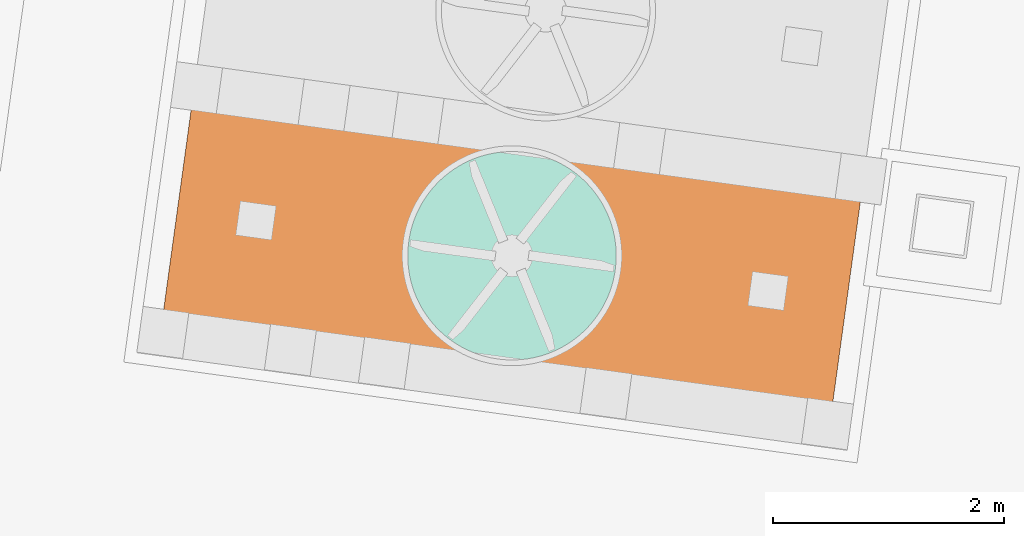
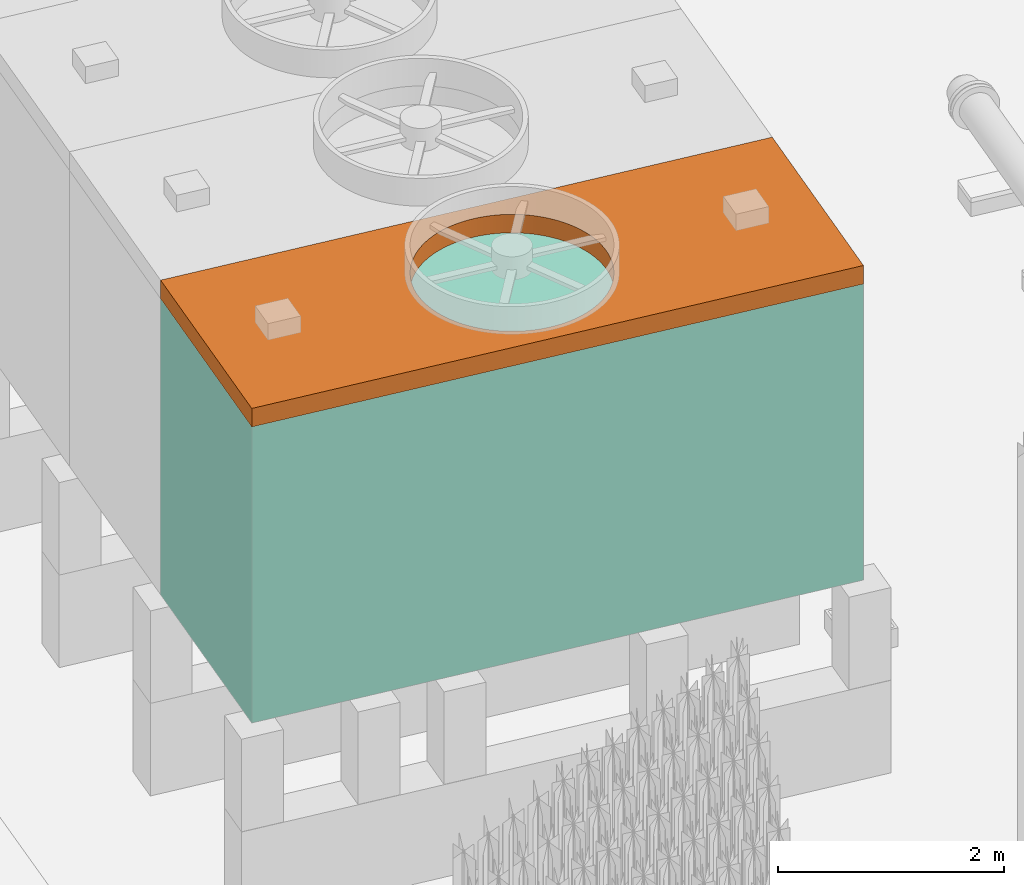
# Not in any storey, part 36 of 75: 1 proxy, plus 1 element that does not belong to this part.
"""IFC4 model written with IfcOpenShell, lengths in metres."""

from ifc_helpers import new_model, si_unit, direction, origin_with_axes, place, context, subcontext, project, spatial, triangles, element, aggregate, save


model = new_model("IFC4")

# Units and contexts
model_context = context("Model", 3, precision=1e-05, world=origin_with_axes(), true_north=direction((0.0, 1.0)))
body_context = subcontext(model_context, "Body", "Model", "MODEL_VIEW")
ifc_project = project(units=[si_unit("AREAUNIT", "SQUARE_METRE"), si_unit("VOLUMEUNIT", "CUBIC_METRE"), si_unit("LENGTHUNIT", "METRE")], contexts=[model_context])

# Site
site_placement = place(None, origin_with_axes())
site = spatial("IfcSite", under=ifc_project, at=site_placement, Name="Parcela industrial Jinhong")

# Cooling tower, proxy
cooling_tower_placement = place(site_placement, origin_with_axes())
cooling_tower = element("IfcCoolingTower", 1, at=cooling_tower_placement, inside=site, Name="Torre de refrigeración WT3001D · Envolvente del cuerpo de la torre", ObjectType="Envolvente de equipo", PredefinedType="USERDEFINED", context=body_context, shape_type="Tessellation", body=[
    triangles([(41.65741, 42.104178, 6.3), (36.153404, 45.021028, 6.3), (35.861928, 42.900971, 6.3), (36.153404, 45.021028, 3.1), (41.65741, 42.104178, 3.1), (35.861928, 42.900971, 3.1), (41.948887, 44.224235, 6.3), (41.948887, 44.224235, 3.1)], [[1, 2, 3], [4, 5, 6], [1, 7, 2], [5, 4, 8], [5, 8, 7], [5, 7, 1], [8, 4, 2], [7, 8, 2], [3, 4, 6], [4, 3, 2], [6, 5, 1], [3, 6, 1]], closed=True),
])
proxy_placement = place(cooling_tower_placement, origin_with_axes())
proxy = element("IfcBuildingElementProxy", 2, at=proxy_placement, Name="Torre de refrigeración WT3001D · Plataforma superior con hueco de ventilador", context=body_context, shape_type="Tessellation", body=[
    triangles([(38.015956, 43.714691, 6.5), (35.861928, 42.900971, 6.5), (38.011456, 43.685508, 6.5), (35.861928, 42.900971, 6.3), (38.015956, 43.714691, 6.3), (38.011456, 43.685508, 6.3), (38.007913, 43.656193, 6.5), (38.007913, 43.656193, 6.3), (36.153404, 45.021028, 6.5), (36.153404, 45.021028, 6.3), (38.005331, 43.626778, 6.5), (38.005331, 43.626778, 6.3), (38.021408, 43.743712, 6.5), (38.021408, 43.743712, 6.3), (38.003713, 43.597294, 6.5), (38.003713, 43.597294, 6.3), (38.027807, 43.772539, 6.5), (38.027807, 43.772539, 6.3), (38.003061, 43.567772, 6.5), (38.003061, 43.567772, 6.3), (38.035146, 43.801141, 6.5), (38.035146, 43.801141, 6.3), (38.003375, 43.538246, 6.5), (38.003375, 43.538246, 6.3), (38.043417, 43.829487, 6.5), (38.043417, 43.829487, 6.3), (38.004655, 43.508745, 6.5), (38.004655, 43.508745, 6.3), (38.05261, 43.857548, 6.5), (38.05261, 43.857548, 6.3), (38.0069, 43.479302, 6.5), (38.0069, 43.479302, 6.3), (38.062717, 43.885292, 6.5), (38.062717, 43.885292, 6.3), (38.010106, 43.449948, 6.5), (38.010106, 43.449948, 6.3), (38.073726, 43.912692, 6.5), (38.073726, 43.912692, 6.3), (38.014271, 43.420715, 6.5), (38.014271, 43.420715, 6.3), (38.085626, 43.939716, 6.5), (38.085626, 43.939716, 6.3), (38.019391, 43.391634, 6.5), (38.019391, 43.391634, 6.3), (38.098404, 43.966337, 6.5), (38.098404, 43.966337, 6.3), (38.025459, 43.362736, 6.5), (38.025459, 43.362736, 6.3), (38.112046, 43.992525, 6.5), (38.112046, 43.992525, 6.3), (38.03247, 43.334052, 6.5), (38.03247, 43.334052, 6.3), (38.126537, 44.018253, 6.5), (38.126537, 44.018253, 6.3), (38.040415, 43.305613, 6.5), (38.040415, 43.305613, 6.3), (38.141863, 44.043493, 6.5), (38.141863, 44.043493, 6.3), (38.049287, 43.277448, 6.5), (38.049287, 43.277448, 6.3), (38.158006, 44.068218, 6.5), (38.158006, 44.068218, 6.3), (38.059075, 43.24959, 6.5), (38.059075, 43.24959, 6.3), (38.174949, 44.092401, 6.5), (38.174949, 44.092401, 6.3), (38.06977, 43.222066, 6.5), (38.06977, 43.222066, 6.3), (38.192675, 44.116018, 6.5), (38.192675, 44.116018, 6.3), (38.081359, 43.194907, 6.5), (38.081359, 43.194907, 6.3), (38.211164, 44.139041, 6.5), (38.211164, 44.139041, 6.3), (38.093831, 43.168142, 6.5), (38.093831, 43.168142, 6.3), (38.230396, 44.161448, 6.5), (38.230396, 44.161448, 6.3), (38.107172, 43.141799, 6.5), (38.107172, 43.141799, 6.3), (38.250351, 44.183213, 6.5), (38.250351, 44.183213, 6.3), (38.121368, 43.115907, 6.5), (38.121368, 43.115907, 6.3), (38.271008, 44.204313, 6.5), (38.271008, 44.204313, 6.3), (38.136403, 43.090493, 6.5), (38.136403, 43.090493, 6.3), (38.292343, 44.224727, 6.5), (38.292343, 44.224727, 6.3), (38.152262, 43.065585, 6.5), (38.152262, 43.065585, 6.3), (38.314336, 44.244431, 6.5), (38.314336, 44.244431, 6.3), (38.168927, 43.041208, 6.5), (38.168927, 43.041208, 6.3), (38.336961, 44.263405, 6.5), (38.336961, 44.263405, 6.3), (38.186381, 43.017391, 6.5), (38.186381, 43.017391, 6.3), (38.360195, 44.281629, 6.5), (38.360195, 44.281629, 6.3), (38.204605, 42.994157, 6.5), (38.204605, 42.994157, 6.3), (38.384013, 44.299083, 6.5), (38.384013, 44.299083, 6.3), (38.223579, 42.971531, 6.5), (38.223579, 42.971531, 6.3), (38.408389, 44.315748, 6.5), (38.408389, 44.315748, 6.3), (38.243283, 42.949539, 6.5), (38.243283, 42.949539, 6.3), (38.433297, 44.331607, 6.5), (38.433297, 44.331607, 6.3), (38.263697, 42.928203, 6.5), (38.263697, 42.928203, 6.3), (38.458711, 44.346642, 6.5), (38.458711, 44.346642, 6.3), (38.284797, 42.907547, 6.5), (38.284797, 42.907547, 6.3), (38.484603, 44.360838, 6.5), (38.484603, 44.360838, 6.3), (38.306562, 42.887592, 6.5), (38.306562, 42.887592, 6.3), (38.510946, 44.374179, 6.5), (38.510946, 44.374179, 6.3), (38.328969, 42.868359, 6.5), (38.328969, 42.868359, 6.3), (38.537711, 44.386651, 6.5), (38.537711, 44.386651, 6.3), (38.351992, 42.849871, 6.5), (38.351992, 42.849871, 6.3), (38.56487, 44.39824, 6.5), (38.56487, 44.39824, 6.3), (38.375609, 42.832145, 6.5), (38.375609, 42.832145, 6.3), (38.592394, 44.408935, 6.5), (38.592394, 44.408935, 6.3), (38.399792, 42.815202, 6.5), (38.399792, 42.815202, 6.3), (38.620253, 44.418723, 6.5), (38.620253, 44.418723, 6.3), (38.424517, 42.799059, 6.5), (38.424517, 42.799059, 6.3), (38.648417, 44.427595, 6.5), (38.648417, 44.427595, 6.3), (38.449757, 42.783733, 6.5), (38.449757, 42.783733, 6.3), (38.676856, 44.43554, 6.5), (38.676856, 44.43554, 6.3), (38.475485, 42.769242, 6.5), (38.475485, 42.769242, 6.3), (38.70554, 44.442551, 6.5), (38.70554, 44.442551, 6.3), (38.501673, 42.7556, 6.5), (38.501673, 42.7556, 6.3), (38.734438, 44.448619, 6.5), (38.734438, 44.448619, 6.3), (38.528294, 42.742822, 6.5), (38.528294, 42.742822, 6.3), (38.76352, 44.453739, 6.5), (38.76352, 44.453739, 6.3), (38.555318, 42.730922, 6.5), (38.555318, 42.730922, 6.3), (38.792753, 44.457904, 6.5), (38.792753, 44.457904, 6.3), (38.582718, 42.719913, 6.5), (38.582718, 42.719913, 6.3), (38.822106, 44.46111, 6.5), (38.822106, 44.46111, 6.3), (38.610462, 42.709806, 6.5), (38.610462, 42.709806, 6.3), (38.851549, 44.463355, 6.5), (38.851549, 44.463355, 6.3), (38.638523, 42.700612, 6.5), (38.638523, 42.700612, 6.3), (38.88105, 44.464635, 6.5), (38.88105, 44.464635, 6.3), (38.666869, 42.692342, 6.5), (38.666869, 42.692342, 6.3), (38.910577, 44.464949, 6.5), (38.910577, 44.464949, 6.3), (38.695471, 42.685003, 6.5), (38.695471, 42.685003, 6.3), (38.940098, 44.464297, 6.5), (38.940098, 44.464297, 6.3), (38.724298, 42.678604, 6.5), (38.724298, 42.678604, 6.3), (38.969582, 44.462679, 6.5), (38.969582, 44.462679, 6.3), (38.753319, 42.673151, 6.5), (38.753319, 42.673151, 6.3), (41.948887, 44.224235, 6.5), (41.948887, 44.224235, 6.3), (38.782502, 42.668651, 6.5), (38.782502, 42.668651, 6.3), (38.998997, 44.460097, 6.5), (38.998997, 44.460097, 6.3), (38.811817, 42.665109, 6.5), (38.811817, 42.665109, 6.3), (39.028312, 44.456554, 6.5), (39.028312, 44.456554, 6.3), (38.841232, 42.662527, 6.5), (38.841232, 42.662527, 6.3), (39.057496, 44.452054, 6.5), (39.057496, 44.452054, 6.3), (41.65741, 42.104178, 6.5), (41.65741, 42.104178, 6.3), (39.086516, 44.446602, 6.5), (39.086516, 44.446602, 6.3), (38.870716, 42.660909, 6.5), (38.870716, 42.660909, 6.3), (39.115343, 44.440203, 6.5), (39.115343, 44.440203, 6.3), (38.900238, 42.660257, 6.5), (38.900238, 42.660257, 6.3), (39.143945, 44.432864, 6.5), (39.143945, 44.432864, 6.3), (38.929764, 42.660571, 6.5), (38.929764, 42.660571, 6.3), (39.172291, 44.424593, 6.5), (39.172291, 44.424593, 6.3), (38.959265, 42.661851, 6.5), (38.959265, 42.661851, 6.3), (39.200352, 44.4154, 6.5), (39.200352, 44.4154, 6.3), (38.988708, 42.664095, 6.5), (38.988708, 42.664095, 6.3), (39.228097, 44.405293, 6.5), (39.228097, 44.405293, 6.3), (39.018062, 42.667302, 6.5), (39.018062, 42.667302, 6.3), (39.255496, 44.394284, 6.5), (39.255496, 44.394284, 6.3), (39.047295, 42.671467, 6.5), (39.047295, 42.671467, 6.3), (39.28252, 44.382384, 6.5), (39.28252, 44.382384, 6.3), (39.076376, 42.676587, 6.5), (39.076376, 42.676587, 6.3), (39.309141, 44.369606, 6.5), (39.309141, 44.369606, 6.3), (39.105274, 42.682655, 6.5), (39.105274, 42.682655, 6.3), (39.335329, 44.355964, 6.5), (39.335329, 44.355964, 6.3), (39.133958, 42.689666, 6.5), (39.133958, 42.689666, 6.3), (39.361057, 44.341473, 6.5), (39.361057, 44.341473, 6.3), (39.162397, 42.697611, 6.5), (39.162397, 42.697611, 6.3), (39.386297, 44.326147, 6.5), (39.386297, 44.326147, 6.3), (39.190562, 42.706483, 6.5), (39.190562, 42.706483, 6.3), (39.411022, 44.310004, 6.5), (39.411022, 44.310004, 6.3), (39.21842, 42.716271, 6.5), (39.21842, 42.716271, 6.3), (39.435206, 44.293061, 6.5), (39.435206, 44.293061, 6.3), (39.245944, 42.726966, 6.5), (39.245944, 42.726966, 6.3), (39.458822, 44.275335, 6.5), (39.458822, 44.275335, 6.3), (39.273103, 42.738555, 6.5), (39.273103, 42.738555, 6.3), (39.481845, 44.256846, 6.5), (39.481845, 44.256846, 6.3), (39.299868, 42.751027, 6.5), (39.299868, 42.751027, 6.3), (39.504252, 44.237614, 6.5), (39.504252, 44.237614, 6.3), (39.326211, 42.764368, 6.5), (39.326211, 42.764368, 6.3), (39.526017, 44.217659, 6.5), (39.526017, 44.217659, 6.3), (39.352103, 42.778564, 6.5), (39.352103, 42.778564, 6.3), (39.547118, 44.197002, 6.5), (39.547118, 44.197002, 6.3), (39.377517, 42.793599, 6.5), (39.377517, 42.793599, 6.3), (39.402425, 42.809458, 6.5), (39.402425, 42.809458, 6.3), (39.567531, 44.175667, 6.5), (39.567531, 44.175667, 6.3), (39.426802, 42.826123, 6.5), (39.426802, 42.826123, 6.3), (39.587235, 44.153674, 6.5), (39.587235, 44.153674, 6.3), (39.450619, 42.843577, 6.5), (39.450619, 42.843577, 6.3), (39.60621, 44.131049, 6.5), (39.60621, 44.131049, 6.3), (39.473853, 42.8618, 6.5), (39.473853, 42.8618, 6.3), (39.624433, 44.107815, 6.5), (39.624433, 44.107815, 6.3), (39.496479, 42.880775, 6.5), (39.496479, 42.880775, 6.3), (39.641887, 44.083997, 6.5), (39.641887, 44.083997, 6.3), (39.518471, 42.900479, 6.5), (39.518471, 42.900479, 6.3), (39.658552, 44.059621, 6.5), (39.658552, 44.059621, 6.3), (39.539807, 42.920892, 6.5), (39.539807, 42.920892, 6.3), (39.674411, 44.034713, 6.5), (39.674411, 44.034713, 6.3), (39.560463, 42.941993, 6.5), (39.560463, 42.941993, 6.3), (39.689446, 44.009299, 6.5), (39.689446, 44.009299, 6.3), (39.580418, 42.963758, 6.5), (39.580418, 42.963758, 6.3), (39.703642, 43.983407, 6.5), (39.703642, 43.983407, 6.3), (39.599651, 42.986165, 6.5), (39.599651, 42.986165, 6.3), (39.716983, 43.957064, 6.5), (39.716983, 43.957064, 6.3), (39.618139, 43.009188, 6.5), (39.618139, 43.009188, 6.3), (39.729455, 43.930299, 6.5), (39.729455, 43.930299, 6.3), (39.635865, 43.032804, 6.5), (39.635865, 43.032804, 6.3), (39.741044, 43.90314, 6.5), (39.741044, 43.90314, 6.3), (39.652808, 43.056988, 6.5), (39.652808, 43.056988, 6.3), (39.751739, 43.875616, 6.5), (39.751739, 43.875616, 6.3), (39.668951, 43.081713, 6.5), (39.668951, 43.081713, 6.3), (39.761527, 43.847757, 6.5), (39.761527, 43.847757, 6.3), (39.684277, 43.106953, 6.5), (39.684277, 43.106953, 6.3), (39.770399, 43.819593, 6.5), (39.770399, 43.819593, 6.3), (39.698768, 43.132681, 6.5), (39.698768, 43.132681, 6.3), (39.778344, 43.791154, 6.5), (39.778344, 43.791154, 6.3), (39.71241, 43.158869, 6.5), (39.71241, 43.158869, 6.3), (39.785355, 43.76247, 6.5), (39.785355, 43.76247, 6.3), (39.725188, 43.18549, 6.5), (39.725188, 43.18549, 6.3), (39.791423, 43.733572, 6.5), (39.791423, 43.733572, 6.3), (39.737088, 43.212514, 6.5), (39.737088, 43.212514, 6.3), (39.796543, 43.70449, 6.5), (39.796543, 43.70449, 6.3), (39.748097, 43.239913, 6.5), (39.748097, 43.239913, 6.3), (39.800708, 43.675257, 6.5), (39.800708, 43.675257, 6.3), (39.758204, 43.267658, 6.5), (39.758204, 43.267658, 6.3), (39.803915, 43.645904, 6.5), (39.803915, 43.645904, 6.3), (39.767398, 43.295719, 6.5), (39.767398, 43.295719, 6.3), (39.806159, 43.616461, 6.5), (39.806159, 43.616461, 6.3), (39.775668, 43.324065, 6.5), (39.775668, 43.324065, 6.3), (39.807439, 43.58696, 6.5), (39.807439, 43.58696, 6.3), (39.783007, 43.352667, 6.5), (39.783007, 43.352667, 6.3), (39.807753, 43.557433, 6.5), (39.807753, 43.557433, 6.3), (39.789406, 43.381494, 6.5), (39.789406, 43.381494, 6.3), (39.807101, 43.527912, 6.5), (39.807101, 43.527912, 6.3), (39.794859, 43.410514, 6.5), (39.794859, 43.410514, 6.3), (39.805483, 43.498428, 6.5), (39.805483, 43.498428, 6.3), (39.799359, 43.439698, 6.5), (39.799359, 43.439698, 6.3), (39.802901, 43.469013, 6.5), (39.802901, 43.469013, 6.3)], [[1, 2, 3], [4, 5, 6], [7, 3, 2], [8, 4, 6], [2, 1, 9], [10, 5, 4], [11, 7, 2], [4, 8, 12], [1, 13, 9], [10, 14, 5], [15, 11, 2], [4, 12, 16], [13, 17, 9], [14, 10, 18], [19, 15, 2], [4, 16, 20], [17, 21, 9], [18, 10, 22], [23, 19, 2], [4, 20, 24], [21, 25, 9], [22, 10, 26], [27, 23, 2], [4, 24, 28], [25, 29, 9], [26, 10, 30], [31, 27, 2], [4, 28, 32], [29, 33, 9], [30, 10, 34], [35, 31, 2], [4, 32, 36], [33, 37, 9], [34, 10, 38], [39, 35, 2], [4, 36, 40], [37, 41, 9], [38, 10, 42], [43, 39, 2], [4, 40, 44], [41, 45, 9], [42, 10, 46], [47, 43, 2], [4, 44, 48], [45, 49, 9], [46, 10, 50], [51, 47, 2], [4, 48, 52], [49, 53, 9], [50, 10, 54], [55, 51, 2], [4, 52, 56], [53, 57, 9], [54, 10, 58], [59, 55, 2], [4, 56, 60], [57, 61, 9], [58, 10, 62], [63, 59, 2], [4, 60, 64], [61, 65, 9], [62, 10, 66], [67, 63, 2], [4, 64, 68], [65, 69, 9], [66, 10, 70], [71, 67, 2], [4, 68, 72], [69, 73, 9], [70, 10, 74], [75, 71, 2], [4, 72, 76], [73, 77, 9], [74, 10, 78], [79, 75, 2], [4, 76, 80], [77, 81, 9], [78, 10, 82], [83, 79, 2], [4, 80, 84], [81, 85, 9], [82, 10, 86], [87, 83, 2], [4, 84, 88], [85, 89, 9], [86, 10, 90], [91, 87, 2], [4, 88, 92], [89, 93, 9], [90, 10, 94], [95, 91, 2], [4, 92, 96], [93, 97, 9], [94, 10, 98], [99, 95, 2], [4, 96, 100], [97, 101, 9], [98, 10, 102], [103, 99, 2], [4, 100, 104], [101, 105, 9], [102, 10, 106], [107, 103, 2], [4, 104, 108], [105, 109, 9], [106, 10, 110], [111, 107, 2], [4, 108, 112], [109, 113, 9], [110, 10, 114], [115, 111, 2], [4, 112, 116], [113, 117, 9], [114, 10, 118], [119, 115, 2], [4, 116, 120], [117, 121, 9], [118, 10, 122], [123, 119, 2], [4, 120, 124], [121, 125, 9], [122, 10, 126], [127, 123, 2], [4, 124, 128], [125, 129, 9], [126, 10, 130], [131, 127, 2], [4, 128, 132], [129, 133, 9], [130, 10, 134], [135, 131, 2], [4, 132, 136], [133, 137, 9], [134, 10, 138], [139, 135, 2], [4, 136, 140], [137, 141, 9], [138, 10, 142], [143, 139, 2], [4, 140, 144], [141, 145, 9], [142, 10, 146], [147, 143, 2], [4, 144, 148], [145, 149, 9], [146, 10, 150], [151, 147, 2], [4, 148, 152], [149, 153, 9], [150, 10, 154], [155, 151, 2], [4, 152, 156], [153, 157, 9], [154, 10, 158], [159, 155, 2], [4, 156, 160], [157, 161, 9], [158, 10, 162], [163, 159, 2], [4, 160, 164], [161, 165, 9], [162, 10, 166], [167, 163, 2], [4, 164, 168], [165, 169, 9], [166, 10, 170], [171, 167, 2], [4, 168, 172], [169, 173, 9], [170, 10, 174], [175, 171, 2], [4, 172, 176], [173, 177, 9], [174, 10, 178], [179, 175, 2], [4, 176, 180], [177, 181, 9], [178, 10, 182], [183, 179, 2], [4, 180, 184], [181, 185, 9], [182, 10, 186], [187, 183, 2], [4, 184, 188], [185, 189, 9], [186, 10, 190], [191, 187, 2], [4, 188, 192], [189, 193, 9], [190, 10, 194], [191, 2, 195], [192, 196, 4], [193, 189, 197], [198, 190, 194], [195, 2, 199], [196, 200, 4], [193, 197, 201], [202, 198, 194], [199, 2, 203], [200, 204, 4], [193, 201, 205], [206, 202, 194], [203, 2, 207], [204, 208, 4], [193, 205, 209], [210, 206, 194], [211, 203, 207], [208, 204, 212], [193, 209, 213], [214, 210, 194], [215, 211, 207], [208, 212, 216], [193, 213, 217], [218, 214, 194], [219, 215, 207], [208, 216, 220], [193, 217, 221], [222, 218, 194], [207, 223, 219], [220, 224, 208], [193, 221, 225], [226, 222, 194], [207, 227, 223], [224, 228, 208], [193, 225, 229], [230, 226, 194], [207, 231, 227], [228, 232, 208], [193, 229, 233], [234, 230, 194], [207, 235, 231], [232, 236, 208], [193, 233, 237], [238, 234, 194], [207, 239, 235], [236, 240, 208], [193, 237, 241], [242, 238, 194], [207, 243, 239], [240, 244, 208], [193, 241, 245], [246, 242, 194], [207, 247, 243], [244, 248, 208], [193, 245, 249], [250, 246, 194], [207, 251, 247], [248, 252, 208], [193, 249, 253], [254, 250, 194], [207, 255, 251], [252, 256, 208], [193, 253, 257], [258, 254, 194], [207, 259, 255], [256, 260, 208], [193, 257, 261], [262, 258, 194], [207, 263, 259], [260, 264, 208], [193, 261, 265], [266, 262, 194], [207, 267, 263], [264, 268, 208], [193, 265, 269], [270, 266, 194], [207, 271, 267], [268, 272, 208], [193, 269, 273], [274, 270, 194], [207, 275, 271], [272, 276, 208], [193, 273, 277], [278, 274, 194], [207, 279, 275], [276, 280, 208], [193, 277, 281], [282, 278, 194], [207, 283, 279], [280, 284, 208], [207, 193, 281], [208, 282, 194], [207, 285, 283], [284, 286, 208], [207, 281, 287], [288, 282, 208], [207, 289, 285], [286, 290, 208], [207, 287, 291], [292, 288, 208], [207, 293, 289], [290, 294, 208], [207, 291, 295], [296, 292, 208], [207, 297, 293], [294, 298, 208], [207, 295, 299], [300, 296, 208], [207, 301, 297], [298, 302, 208], [207, 299, 303], [304, 300, 208], [207, 305, 301], [302, 306, 208], [207, 303, 307], [308, 304, 208], [207, 309, 305], [306, 310, 208], [207, 307, 311], [312, 308, 208], [309, 207, 313], [310, 314, 208], [207, 311, 315], [316, 312, 208], [313, 207, 317], [314, 318, 208], [207, 315, 319], [320, 316, 208], [317, 207, 321], [318, 322, 208], [207, 319, 323], [324, 320, 208], [321, 207, 325], [322, 326, 208], [207, 323, 327], [328, 324, 208], [325, 207, 329], [326, 330, 208], [207, 327, 331], [332, 328, 208], [329, 207, 333], [330, 334, 208], [207, 331, 335], [336, 332, 208], [333, 207, 337], [334, 338, 208], [207, 335, 339], [340, 336, 208], [337, 207, 341], [338, 342, 208], [207, 339, 343], [344, 340, 208], [341, 207, 345], [342, 346, 208], [207, 343, 347], [348, 344, 208], [345, 207, 349], [346, 350, 208], [207, 347, 351], [352, 348, 208], [349, 207, 353], [350, 354, 208], [207, 351, 355], [356, 352, 208], [353, 207, 357], [354, 358, 208], [207, 355, 359], [360, 356, 208], [357, 207, 361], [358, 362, 208], [207, 359, 363], [364, 360, 208], [361, 207, 365], [362, 366, 208], [207, 363, 367], [368, 364, 208], [365, 207, 369], [366, 370, 208], [207, 367, 371], [372, 368, 208], [369, 207, 373], [370, 374, 208], [207, 371, 375], [376, 372, 208], [373, 207, 377], [374, 378, 208], [207, 375, 379], [380, 376, 208], [377, 207, 381], [378, 382, 208], [207, 379, 383], [384, 380, 208], [381, 207, 385], [382, 386, 208], [207, 383, 387], [388, 384, 208], [385, 207, 389], [386, 390, 208], [207, 387, 391], [392, 388, 208], [389, 207, 391], [390, 392, 208], [207, 4, 208], [4, 207, 2], [194, 193, 208], [208, 193, 207], [194, 10, 9], [193, 194, 9], [4, 2, 10], [10, 2, 9], [392, 390, 389], [392, 389, 391], [390, 386, 385], [390, 385, 389], [386, 382, 381], [386, 381, 385], [382, 378, 377], [382, 377, 381], [378, 374, 373], [378, 373, 377], [374, 370, 369], [374, 369, 373], [370, 366, 365], [370, 365, 369], [366, 362, 361], [366, 361, 365], [362, 358, 357], [362, 357, 361], [358, 354, 353], [358, 353, 357], [354, 350, 349], [354, 349, 353], [350, 346, 345], [350, 345, 349], [346, 342, 341], [346, 341, 345], [342, 338, 337], [342, 337, 341], [338, 334, 333], [338, 333, 337], [334, 330, 329], [334, 329, 333], [330, 326, 325], [330, 325, 329], [326, 322, 321], [326, 321, 325], [322, 318, 317], [322, 317, 321], [318, 314, 313], [318, 313, 317], [314, 310, 309], [314, 309, 313], [310, 306, 305], [310, 305, 309], [306, 302, 301], [306, 301, 305], [302, 298, 297], [302, 297, 301], [298, 294, 293], [298, 293, 297], [294, 290, 289], [294, 289, 293], [290, 286, 285], [290, 285, 289], [286, 284, 283], [286, 283, 285], [284, 280, 279], [284, 279, 283], [280, 276, 275], [280, 275, 279], [276, 272, 271], [276, 271, 275], [272, 268, 267], [272, 267, 271], [268, 264, 263], [268, 263, 267], [264, 260, 259], [264, 259, 263], [260, 256, 255], [260, 255, 259], [256, 252, 251], [256, 251, 255], [252, 248, 247], [252, 247, 251], [248, 244, 243], [248, 243, 247], [244, 240, 239], [244, 239, 243], [240, 236, 235], [240, 235, 239], [236, 232, 231], [236, 231, 235], [232, 228, 227], [232, 227, 231], [228, 224, 223], [228, 223, 227], [224, 220, 219], [224, 219, 223], [220, 216, 215], [220, 215, 219], [216, 212, 211], [216, 211, 215], [212, 204, 203], [212, 203, 211], [204, 200, 199], [204, 199, 203], [200, 196, 195], [200, 195, 199], [196, 192, 191], [196, 191, 195], [192, 188, 187], [192, 187, 191], [188, 184, 183], [188, 183, 187], [184, 180, 179], [184, 179, 183], [180, 176, 175], [180, 175, 179], [176, 172, 171], [176, 171, 175], [172, 168, 167], [172, 167, 171], [168, 164, 163], [168, 163, 167], [164, 160, 159], [164, 159, 163], [160, 156, 155], [160, 155, 159], [156, 152, 151], [156, 151, 155], [152, 148, 147], [152, 147, 151], [148, 144, 143], [148, 143, 147], [144, 140, 139], [144, 139, 143], [140, 136, 135], [140, 135, 139], [136, 132, 131], [136, 131, 135], [132, 128, 127], [132, 127, 131], [128, 124, 123], [128, 123, 127], [124, 120, 119], [124, 119, 123], [120, 116, 115], [120, 115, 119], [116, 112, 111], [116, 111, 115], [112, 108, 107], [112, 107, 111], [108, 104, 103], [108, 103, 107], [104, 100, 99], [104, 99, 103], [100, 96, 95], [100, 95, 99], [96, 92, 91], [96, 91, 95], [92, 88, 87], [92, 87, 91], [88, 84, 83], [88, 83, 87], [84, 80, 79], [84, 79, 83], [80, 76, 75], [80, 75, 79], [76, 72, 71], [76, 71, 75], [72, 68, 67], [72, 67, 71], [68, 64, 63], [68, 63, 67], [64, 60, 59], [64, 59, 63], [60, 56, 55], [60, 55, 59], [56, 52, 51], [56, 51, 55], [52, 48, 47], [52, 47, 51], [48, 44, 43], [48, 43, 47], [44, 40, 39], [44, 39, 43], [40, 36, 35], [40, 35, 39], [36, 32, 31], [36, 31, 35], [32, 28, 27], [32, 27, 31], [28, 24, 23], [28, 23, 27], [24, 20, 19], [24, 19, 23], [20, 16, 15], [20, 15, 19], [16, 12, 11], [16, 11, 15], [12, 8, 7], [12, 7, 11], [8, 6, 3], [8, 3, 7], [6, 5, 1], [1, 3, 6], [5, 14, 13], [5, 13, 1], [14, 18, 17], [14, 17, 13], [18, 22, 21], [18, 21, 17], [22, 26, 25], [22, 25, 21], [26, 30, 29], [26, 29, 25], [30, 34, 33], [30, 33, 29], [34, 38, 37], [34, 37, 33], [38, 42, 41], [38, 41, 37], [42, 46, 45], [42, 45, 41], [46, 50, 49], [46, 49, 45], [50, 54, 53], [50, 53, 49], [54, 58, 57], [54, 57, 53], [58, 62, 61], [58, 61, 57], [62, 66, 65], [62, 65, 61], [66, 70, 69], [66, 69, 65], [70, 74, 73], [70, 73, 69], [74, 78, 77], [74, 77, 73], [78, 82, 81], [78, 81, 77], [82, 86, 85], [82, 85, 81], [89, 86, 90], [89, 85, 86], [93, 90, 94], [93, 89, 90], [97, 94, 98], [97, 93, 94], [101, 98, 102], [101, 97, 98], [105, 102, 106], [105, 101, 102], [109, 106, 110], [109, 105, 106], [113, 110, 114], [113, 109, 110], [117, 114, 118], [117, 113, 114], [121, 118, 122], [121, 117, 118], [125, 122, 126], [125, 121, 122], [129, 126, 130], [129, 125, 126], [133, 130, 134], [133, 129, 130], [137, 134, 138], [137, 133, 134], [141, 138, 142], [141, 137, 138], [145, 142, 146], [145, 141, 142], [149, 146, 150], [149, 145, 146], [153, 150, 154], [153, 149, 150], [157, 154, 158], [157, 153, 154], [161, 158, 162], [161, 157, 158], [165, 162, 166], [165, 161, 162], [169, 166, 170], [169, 165, 166], [173, 170, 174], [173, 169, 170], [177, 174, 178], [177, 173, 174], [181, 178, 182], [181, 177, 178], [185, 182, 186], [185, 181, 182], [189, 186, 190], [189, 185, 186], [197, 190, 198], [197, 189, 190], [201, 198, 202], [201, 197, 198], [205, 202, 206], [205, 201, 202], [209, 206, 210], [209, 205, 206], [213, 210, 214], [213, 209, 210], [217, 214, 218], [217, 213, 214], [221, 218, 222], [221, 217, 218], [225, 222, 226], [225, 221, 222], [229, 226, 230], [229, 225, 226], [233, 230, 234], [233, 229, 230], [237, 234, 238], [237, 233, 234], [241, 238, 242], [241, 237, 238], [245, 242, 246], [245, 241, 242], [249, 246, 250], [249, 245, 246], [253, 250, 254], [253, 249, 250], [257, 254, 258], [257, 253, 254], [261, 258, 262], [261, 257, 258], [265, 262, 266], [265, 261, 262], [269, 266, 270], [269, 265, 266], [273, 270, 274], [273, 269, 270], [277, 274, 278], [277, 273, 274], [281, 278, 282], [281, 277, 278], [282, 288, 287], [282, 287, 281], [288, 292, 291], [288, 291, 287], [292, 296, 295], [292, 295, 291], [296, 300, 299], [296, 299, 295], [300, 304, 303], [300, 303, 299], [304, 308, 307], [304, 307, 303], [308, 312, 311], [308, 311, 307], [312, 316, 315], [312, 315, 311], [316, 320, 319], [316, 319, 315], [320, 324, 323], [320, 323, 319], [324, 328, 327], [324, 327, 323], [328, 332, 331], [328, 331, 327], [332, 336, 335], [332, 335, 331], [336, 340, 339], [336, 339, 335], [340, 344, 343], [340, 343, 339], [344, 348, 347], [344, 347, 343], [348, 352, 351], [348, 351, 347], [352, 356, 355], [352, 355, 351], [356, 360, 359], [356, 359, 355], [360, 364, 363], [360, 363, 359], [364, 368, 367], [364, 367, 363], [368, 372, 371], [368, 371, 367], [372, 376, 375], [372, 375, 371], [376, 380, 379], [376, 379, 375], [380, 384, 383], [380, 383, 379], [384, 388, 387], [384, 387, 383], [388, 392, 391], [388, 391, 387]], closed=True),
])
aggregate(cooling_tower, [proxy])

save(model, "model.ifc")
